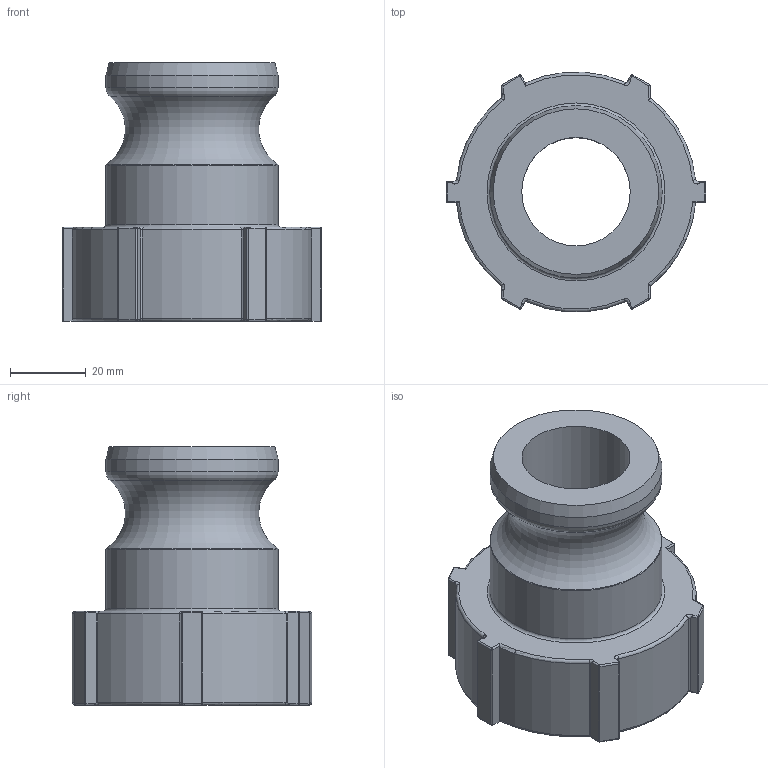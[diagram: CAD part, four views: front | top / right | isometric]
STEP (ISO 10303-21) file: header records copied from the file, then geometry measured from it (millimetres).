
FILE_DESCRIPTION(/* description */ ('Alibre Inc.'),/* implementation_level */ '2;1');
FILE_NAME(/* name */ 'export0',/* time_stamp */ '2015-12-29T12:56:36-05:00',/* author */ (''),/* organization */ (''),/* preprocessor_version */ 'ST-DEVELOPER v14',/* originating_system */ 'Alibre',/* authorisation */ '');
FILE_SCHEMA (('CONFIG_CONTROL_DESIGN'));
Length unit declared in the file: centimetre
Products named in the file (1): ID_1
Bounding box: 68.58 x 63.28 x 68.33 mm (x, y, z)
Volume: 73768.5 mm3; surface area: 26929.1 mm2
Topology: 1 solids, 1 shells, 172 faces, 435 edges, 248 vertices
Faces by surface type: cylinder 63, cone 32, torus 31, plane 23, sphere 20, bspline 3
Full cylindrical faces by diameter (mm): 28.651 x1, 42.418 x1, 45.517 x2
Entity records: 34223 total; most frequent: CARTESIAN_POINT 30368, ORIENTED_EDGE 806, DIRECTION 731, EDGE_CURVE 403, AXIS2_PLACEMENT_3D 322, VERTEX_POINT 245, EDGE_LOOP 186, FACE_BOUND 186
